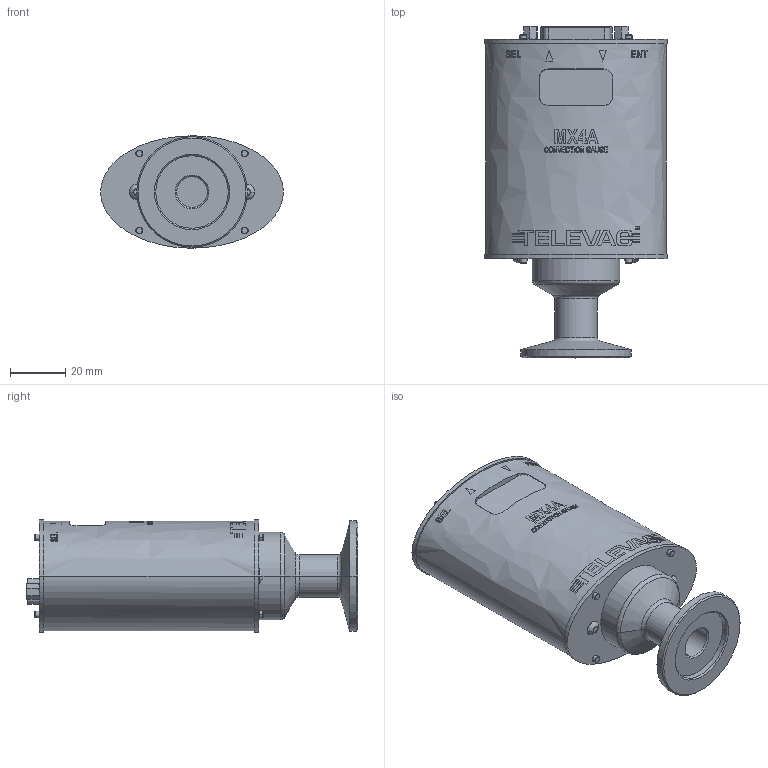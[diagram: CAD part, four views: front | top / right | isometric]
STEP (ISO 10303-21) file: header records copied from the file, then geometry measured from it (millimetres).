
FILE_DESCRIPTION (( 'STEP AP214' ), '1' );
FILE_NAME ('2-8930-131_defeature.STEP', '2022-08-05T20:00:21', ( '' ), ( '' ), 'SwSTEP 2.0', 'SolidWorks 2022', '' );
FILE_SCHEMA (( 'AUTOMOTIVE_DESIGN' ));
Length unit declared in the file: inch
Products named in the file (1): 2-8930-131_defeature
Bounding box: 66.04 x 119.98 x 40.63 mm (x, y, z)
Volume: 160978.1 mm3; surface area: 31077.4 mm2
Topology: 5 solids, 5 shells, 698 faces, 2079 edges, 1520 vertices
Faces by surface type: cylinder 246, plane 217, bspline 93, cone 78, torus 60, sphere 4
Entity records: 39406 total; most frequent: CARTESIAN_POINT 12913, ORIENTED_EDGE 4158, DIRECTION 2932, EDGE_CURVE 2079, VERTEX_POINT 1520, AXIS2_PLACEMENT_3D 1097, EDGE_LOOP 827, VECTOR 738
